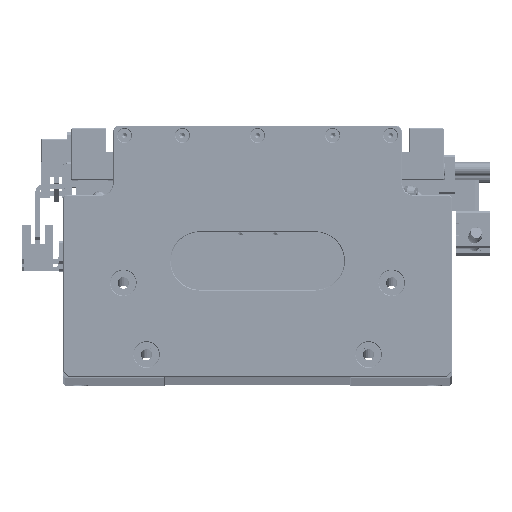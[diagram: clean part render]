
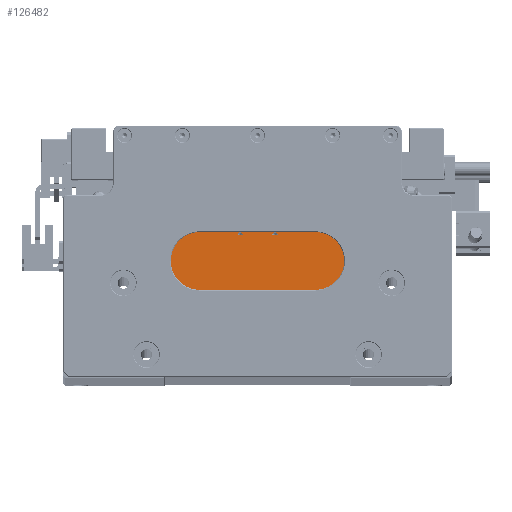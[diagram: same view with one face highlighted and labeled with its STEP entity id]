
A CAD part, top view. The second image highlights one B-rep face of the part: STEP entity #126482.
In plain terms, the highlighted planar face has unit normal (0, 0, 1).
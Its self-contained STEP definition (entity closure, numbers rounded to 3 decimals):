
#1331 = VERTEX_POINT ( 'NONE', #33772 ) ;
#2285 = CIRCLE ( 'NONE', #56778, 1.25 ) ;
#3401 = CARTESIAN_POINT ( 'NONE',  ( -45., 69.2, 90. ) ) ;
#6461 = DIRECTION ( 'NONE',  ( 0., 0., 1. ) ) ;
#7470 = CARTESIAN_POINT ( 'NONE',  ( 0., 61.2, 90. ) ) ;
#11725 = CARTESIAN_POINT ( 'NONE',  ( -45., 61.2, 90. ) ) ;
#11858 = LINE ( 'NONE', #38672, #68520 ) ;
#12166 = EDGE_CURVE ( 'NONE', #33847, #78154, #144845, .T. ) ;
#13211 = DIRECTION ( 'NONE',  ( 0., 0., -1. ) ) ;
#14350 = DIRECTION ( 'NONE',  ( 0., -1., 0. ) ) ;
#16237 = LINE ( 'NONE', #142467, #129574 ) ;
#17374 = VERTEX_POINT ( 'NONE', #34090 ) ;
#18968 = ORIENTED_EDGE ( 'NONE', *, *, #105881, .F. ) ;
#19277 = DIRECTION ( 'NONE',  ( -1., 0., 0. ) ) ;
#19335 = DIRECTION ( 'NONE',  ( -1., 0., 0. ) ) ;
#19803 = VECTOR ( 'NONE', #19335, 1000. ) ;
#21893 = VERTEX_POINT ( 'NONE', #130002 ) ;
#24229 = CARTESIAN_POINT ( 'NONE',  ( 45., 61.2, 90. ) ) ;
#24608 = DIRECTION ( 'NONE',  ( 0., -1., 0. ) ) ;
#25642 = DIRECTION ( 'NONE',  ( 0., -1., 0. ) ) ;
#27325 = DIRECTION ( 'NONE',  ( -1., 0., 0. ) ) ;
#30099 = CARTESIAN_POINT ( 'NONE',  ( 33.5, 69., 90. ) ) ;
#30716 = VECTOR ( 'NONE', #19277, 1000. ) ;
#32417 = ORIENTED_EDGE ( 'NONE', *, *, #58966, .T. ) ;
#33772 = CARTESIAN_POINT ( 'NONE',  ( 45., 29., 90. ) ) ;
#33847 = VERTEX_POINT ( 'NONE', #53878 ) ;
#34090 = CARTESIAN_POINT ( 'NONE',  ( -8.75, 61.2, 90. ) ) ;
#35938 = EDGE_CURVE ( 'NONE', #17374, #37641, #2285, .T. ) ;
#36419 = EDGE_CURVE ( 'NONE', #37641, #17374, #92449, .T. ) ;
#37406 = ORIENTED_EDGE ( 'NONE', *, *, #35938, .T. ) ;
#37641 = VERTEX_POINT ( 'NONE', #77797 ) ;
#38672 = CARTESIAN_POINT ( 'NONE',  ( 0., 61.2, 90. ) ) ;
#40411 = FACE_BOUND ( 'NONE', #126856, .T. ) ;
#42727 = ORIENTED_EDGE ( 'NONE', *, *, #61361, .T. ) ;
#44556 = DIRECTION ( 'NONE',  ( 0., 0., -1. ) ) ;
#46348 = VERTEX_POINT ( 'NONE', #30099 ) ;
#47547 = EDGE_LOOP ( 'NONE', ( #48231, #135587, #60642, #42727, #98989, #124614, #106382, #18968 ) ) ;
#48231 = ORIENTED_EDGE ( 'NONE', *, *, #128816, .F. ) ;
#48977 = VECTOR ( 'NONE', #86611, 1000. ) ;
#49840 = AXIS2_PLACEMENT_3D ( 'NONE', #81021, #13211, #92396 ) ;
#51517 = CARTESIAN_POINT ( 'NONE',  ( 33.5, 61.2, 90. ) ) ;
#53878 = CARTESIAN_POINT ( 'NONE',  ( -33.5, 69., 90. ) ) ;
#55346 = DIRECTION ( 'NONE',  ( 0., 1., 0. ) ) ;
#56778 = AXIS2_PLACEMENT_3D ( 'NONE', #112434, #44556, #123803 ) ;
#58235 = LINE ( 'NONE', #123182, #144998 ) ;
#58795 = VECTOR ( 'NONE', #98474, 1000. ) ;
#58966 = EDGE_CURVE ( 'NONE', #21893, #111580, #110164, .T. ) ;
#60642 = ORIENTED_EDGE ( 'NONE', *, *, #91973, .T. ) ;
#60910 = LINE ( 'NONE', #132162, #30716 ) ;
#61361 = EDGE_CURVE ( 'NONE', #46348, #33847, #16237, .T. ) ;
#62833 = PLANE ( 'NONE',  #112498 ) ;
#65523 = LINE ( 'NONE', #3401, #99271 ) ;
#68137 = CARTESIAN_POINT ( 'NONE',  ( -33.5, 61.2, 90. ) ) ;
#68520 = VECTOR ( 'NONE', #27325, 1000. ) ;
#68927 = EDGE_CURVE ( 'NONE', #134135, #81751, #11858, .T. ) ;
#70751 = CARTESIAN_POINT ( 'NONE',  ( -33.5, 69.2, 90. ) ) ;
#73592 = LINE ( 'NONE', #92431, #133766 ) ;
#73917 = ORIENTED_EDGE ( 'NONE', *, *, #36419, .T. ) ;
#73935 = EDGE_CURVE ( 'NONE', #140478, #122002, #65523, .T. ) ;
#75136 = DIRECTION ( 'NONE',  ( -1., 0., 0. ) ) ;
#77034 = CARTESIAN_POINT ( 'NONE',  ( 6.25, 61.2, 90. ) ) ;
#77797 = CARTESIAN_POINT ( 'NONE',  ( -6.25, 61.2, 90. ) ) ;
#78154 = VERTEX_POINT ( 'NONE', #68137 ) ;
#81021 = CARTESIAN_POINT ( 'NONE',  ( 7.5, 61.2, 90. ) ) ;
#81751 = VERTEX_POINT ( 'NONE', #51517 ) ;
#85620 = DIRECTION ( 'NONE',  ( 1., 0., 0. ) ) ;
#86611 = DIRECTION ( 'NONE',  ( -1., 0., 0. ) ) ;
#91973 = EDGE_CURVE ( 'NONE', #81751, #46348, #58235, .T. ) ;
#92396 = DIRECTION ( 'NONE',  ( 1., 0., 0. ) ) ;
#92431 = CARTESIAN_POINT ( 'NONE',  ( 45., 61.2, 90. ) ) ;
#92449 = LINE ( 'NONE', #120764, #58795 ) ;
#98474 = DIRECTION ( 'NONE',  ( -1., 0., 0. ) ) ;
#98989 = ORIENTED_EDGE ( 'NONE', *, *, #12166, .T. ) ;
#99271 = VECTOR ( 'NONE', #25642, 1000. ) ;
#99451 = CARTESIAN_POINT ( 'NONE',  ( -45., 29., 90. ) ) ;
#100731 = FACE_OUTER_BOUND ( 'NONE', #47547, .T. ) ;
#104316 = FACE_BOUND ( 'NONE', #138798, .T. ) ;
#105727 = LINE ( 'NONE', #7470, #48977 ) ;
#105881 = EDGE_CURVE ( 'NONE', #1331, #122002, #60910, .T. ) ;
#106382 = ORIENTED_EDGE ( 'NONE', *, *, #73935, .T. ) ;
#109970 = CARTESIAN_POINT ( 'NONE',  ( -45., 61.2, 90. ) ) ;
#110164 = LINE ( 'NONE', #109970, #19803 ) ;
#111580 = VERTEX_POINT ( 'NONE', #77034 ) ;
#112434 = CARTESIAN_POINT ( 'NONE',  ( -7.5, 61.2, 90. ) ) ;
#112498 = AXIS2_PLACEMENT_3D ( 'NONE', #142069, #6461, #85620 ) ;
#112591 = EDGE_CURVE ( 'NONE', #78154, #140478, #105727, .T. ) ;
#115710 = EDGE_CURVE ( 'NONE', #111580, #21893, #128730, .T. ) ;
#118349 = VECTOR ( 'NONE', #14350, 1000. ) ;
#120764 = CARTESIAN_POINT ( 'NONE',  ( -45., 61.2, 90. ) ) ;
#122002 = VERTEX_POINT ( 'NONE', #99451 ) ;
#123182 = CARTESIAN_POINT ( 'NONE',  ( 33.5, 69.2, 90. ) ) ;
#123803 = DIRECTION ( 'NONE',  ( 1., 0., 0. ) ) ;
#124614 = ORIENTED_EDGE ( 'NONE', *, *, #112591, .T. ) ;
#126482 = ADVANCED_FACE ( 'NONE', ( #100731, #40411, #104316 ), #62833, .T. ) ;
#126856 = EDGE_LOOP ( 'NONE', ( #37406, #73917 ) ) ;
#128730 = CIRCLE ( 'NONE', #49840, 1.25 ) ;
#128816 = EDGE_CURVE ( 'NONE', #134135, #1331, #73592, .T. ) ;
#129574 = VECTOR ( 'NONE', #75136, 1000. ) ;
#130002 = CARTESIAN_POINT ( 'NONE',  ( 8.75, 61.2, 90. ) ) ;
#132162 = CARTESIAN_POINT ( 'NONE',  ( -45., 29., 90. ) ) ;
#133766 = VECTOR ( 'NONE', #24608, 1000. ) ;
#134135 = VERTEX_POINT ( 'NONE', #24229 ) ;
#135587 = ORIENTED_EDGE ( 'NONE', *, *, #68927, .T. ) ;
#138798 = EDGE_LOOP ( 'NONE', ( #141829, #32417 ) ) ;
#140478 = VERTEX_POINT ( 'NONE', #11725 ) ;
#141829 = ORIENTED_EDGE ( 'NONE', *, *, #115710, .T. ) ;
#142069 = CARTESIAN_POINT ( 'NONE',  ( 0., 69.2, 90. ) ) ;
#142467 = CARTESIAN_POINT ( 'NONE',  ( 0., 69., 90. ) ) ;
#144845 = LINE ( 'NONE', #70751, #118349 ) ;
#144998 = VECTOR ( 'NONE', #55346, 1000. ) ;
